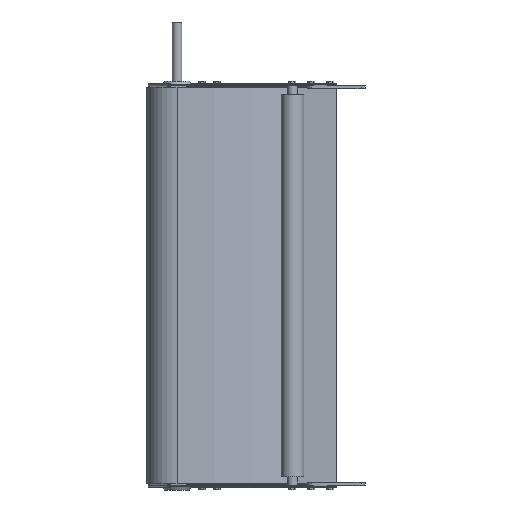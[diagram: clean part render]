
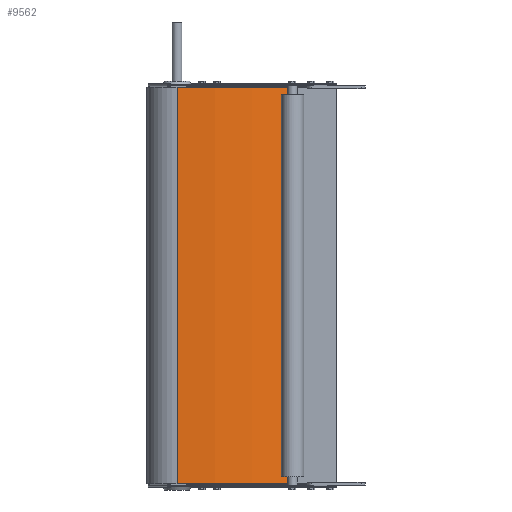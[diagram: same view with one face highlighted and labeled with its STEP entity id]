
A CAD part, front view. The second image highlights one B-rep face of the part: STEP entity #9562.
In plain terms, the highlighted cylindrical face has radius 508.8 mm (diameter 1017.6 mm), a partial arc.
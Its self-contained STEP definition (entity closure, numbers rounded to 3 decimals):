
#45 = ORIENTED_EDGE ( 'NONE', *, *, #846, .F. ) ;
#83 = CIRCLE ( 'NONE', #6014, 508.8 ) ;
#489 = CARTESIAN_POINT ( 'NONE',  ( 296.602, -71.429, -419.1 ) ) ;
#801 = CYLINDRICAL_SURFACE ( 'NONE', #6723, 508.8 ) ;
#846 = EDGE_CURVE ( 'NONE', #6849, #2908, #8466, .T. ) ;
#888 = ORIENTED_EDGE ( 'NONE', *, *, #940, .T. ) ;
#940 = EDGE_CURVE ( 'NONE', #1860, #8123, #83, .T. ) ;
#1860 = VERTEX_POINT ( 'NONE', #5751 ) ;
#2562 = LINE ( 'NONE', #9258, #7434 ) ;
#2908 = VERTEX_POINT ( 'NONE', #4297 ) ;
#3023 = DIRECTION ( 'NONE',  ( 0., 0., 1. ) ) ;
#3060 = EDGE_CURVE ( 'NONE', #8123, #2908, #2562, .T. ) ;
#3076 = LINE ( 'NONE', #6568, #4267 ) ;
#3110 = DIRECTION ( 'NONE',  ( 0., 0., 1. ) ) ;
#3608 = DIRECTION ( 'NONE',  ( 0., 0., 1. ) ) ;
#3747 = FACE_OUTER_BOUND ( 'NONE', #7613, .T. ) ;
#3946 = DIRECTION ( 'NONE',  ( 0., 0., 1. ) ) ;
#4138 = DIRECTION ( 'NONE',  ( 0., 0., 1. ) ) ;
#4267 = VECTOR ( 'NONE', #3023, 1000. ) ;
#4297 = CARTESIAN_POINT ( 'NONE',  ( 296.602, -71.429, 419.1 ) ) ;
#4307 = EDGE_CURVE ( 'NONE', #1860, #6849, #3076, .T. ) ;
#4534 = CARTESIAN_POINT ( 'NONE',  ( 64.602, 381.399, -419.1 ) ) ;
#4577 = ORIENTED_EDGE ( 'NONE', *, *, #3060, .T. ) ;
#5124 = CARTESIAN_POINT ( 'NONE',  ( 64.602, 381.399, -419.1 ) ) ;
#5552 = CARTESIAN_POINT ( 'NONE',  ( 64.602, 381.399, 419.1 ) ) ;
#5751 = CARTESIAN_POINT ( 'NONE',  ( 63.571, -127.4, -419.1 ) ) ;
#6014 = AXIS2_PLACEMENT_3D ( 'NONE', #5124, #3608, #8845 ) ;
#6568 = CARTESIAN_POINT ( 'NONE',  ( 63.571, -127.4, -419.1 ) ) ;
#6723 = AXIS2_PLACEMENT_3D ( 'NONE', #4534, #3110, #7617 ) ;
#6849 = VERTEX_POINT ( 'NONE', #7536 ) ;
#7434 = VECTOR ( 'NONE', #4138, 1000. ) ;
#7536 = CARTESIAN_POINT ( 'NONE',  ( 63.571, -127.4, 419.1 ) ) ;
#7613 = EDGE_LOOP ( 'NONE', ( #45, #9241, #888, #4577 ) ) ;
#7617 = DIRECTION ( 'NONE',  ( 1., 0., 0. ) ) ;
#7718 = DIRECTION ( 'NONE',  ( -1., 0., 0. ) ) ;
#8123 = VERTEX_POINT ( 'NONE', #489 ) ;
#8466 = CIRCLE ( 'NONE', #9228, 508.8 ) ;
#8845 = DIRECTION ( 'NONE',  ( -1., 0., 0. ) ) ;
#9228 = AXIS2_PLACEMENT_3D ( 'NONE', #5552, #3946, #7718 ) ;
#9241 = ORIENTED_EDGE ( 'NONE', *, *, #4307, .F. ) ;
#9258 = CARTESIAN_POINT ( 'NONE',  ( 296.602, -71.429, -419.1 ) ) ;
#9562 = ADVANCED_FACE ( 'NONE', ( #3747 ), #801, .T. ) ;
